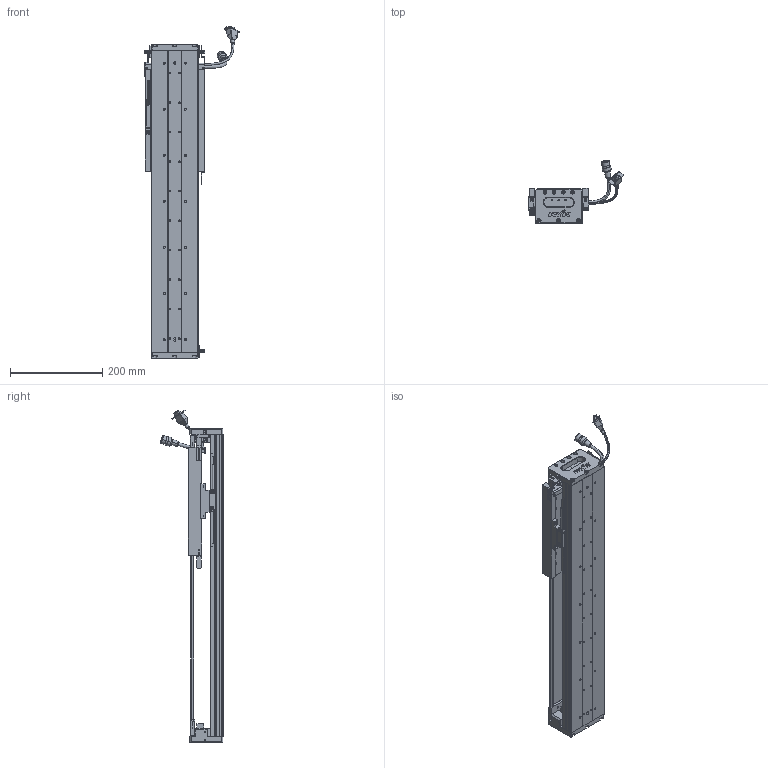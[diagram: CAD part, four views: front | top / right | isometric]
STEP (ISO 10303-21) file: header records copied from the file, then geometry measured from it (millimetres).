
FILE_DESCRIPTION (( 'STEP AP203' ), '1' );
FILE_NAME ('Z3-RY100D-1-L500-B-K.SLDASM_0350.step', '2021-05-17T02:49:33', ( '盈信电脑' ), ( '东莞市道滘镇水果街19号' ), 'SwSTEP 2.0', 'SolidWorks 2016', '' );
FILE_SCHEMA (( 'CONFIG_CONTROL_DESIGN' ));
Length unit declared in the file: millimetre
Products named in the file (36): HARNESS-Part-1; HARNESS-Part-2; HOLDER0; LABEL; Z-RY100D詩湍奻揤裔; Z3-RY100铝滑块（21款）; LABEL-Part-1; 080黍杅芛假蚾釱21遴; SCREW-M1.6-3; HARNESS; 100-Z-臏賑輸盄裔(21遴); Z3-RY100D-1-L500-B-K.SLDASM_0350; SCREW-M1.6-2; PSLH080_PSLF2; Z-RY100D覜茼んえ; Z-100詩湍傷裔啣; SCREW-M1.7; COVER-Part-1; 榋妏寠巭燃_暯_M2_2; SCALE-Part-1; SCALE-Part-2; PBU_SHEET; Z3-RY100-L500詩湍90mm遵_0350; Z3-RY100D-500-倰第菁釱_0350; SHIELDPLATE; SCREW-M1.6; SCREW-M1.6-1; SCREW-M1.7-1; SCALE; 140蚥薯蝶輸; 覜茼ん672; SEAL; SEAL-Part-1; 140雄赽晤鎢ん堤盄; Z-RY100D詩湍狟揤裔; COVER
Assembly tree (43 placements, depth 4):
  Z3-RY100D-1-L500-B-K.SLDASM_0350
    Z3-RY100D-500-倰第菁釱_0350
    Z3-RY100铝滑块（21款）
    PSLH080_PSLF2
      SCALE
        SCALE-Part-1
        SCALE-Part-2
      HARNESS
        HARNESS-Part-1
        HARNESS-Part-2
      LABEL
        LABEL-Part-1
      COVER
        COVER-Part-1
      SEAL
        SEAL-Part-1
      榋妏寠巭燃_暯_M2_2
      SHIELDPLATE
      SCREW-M1.7
      SCREW-M1.7-1
      PBU_SHEET
      SCREW-M1.6
      SCREW-M1.6-1
      SCREW-M1.6-2
      SCREW-M1.6-3
      HOLDER0
    080黍杅芛假蚾釱21遴
    Z-100詩湍傷裔啣  x2
    140蚥薯蝶輸  x2
    覜茼ん672  x3
    Z-RY100D覜茼んえ  x3
    100-Z-臏賑輸盄裔(21遴)
    140雄赽晤鎢ん堤盄
    Z3-RY100-L500詩湍90mm遵_0350
    Z-RY100D詩湍狟揤裔  x2
    Z-RY100D詩湍奻揤裔  x2
Bounding box: 205.84 x 136.11 x 720.43 mm (x, y, z)
Volume: 1774312.9 mm3; surface area: 659661.1 mm2
Topology: 38 solids, 38 shells, 2485 faces, 6439 edges, 4060 vertices
Faces by surface type: plane 1107, cylinder 1030, cone 226, torus 69, bspline 53
Entity records: 66145 total; most frequent: CARTESIAN_POINT 13969, DIRECTION 10409, ORIENTED_EDGE 9758, EDGE_CURVE 4879, AXIS2_PLACEMENT_3D 3796, VERTEX_POINT 3128, LINE 2817, VECTOR 2817
